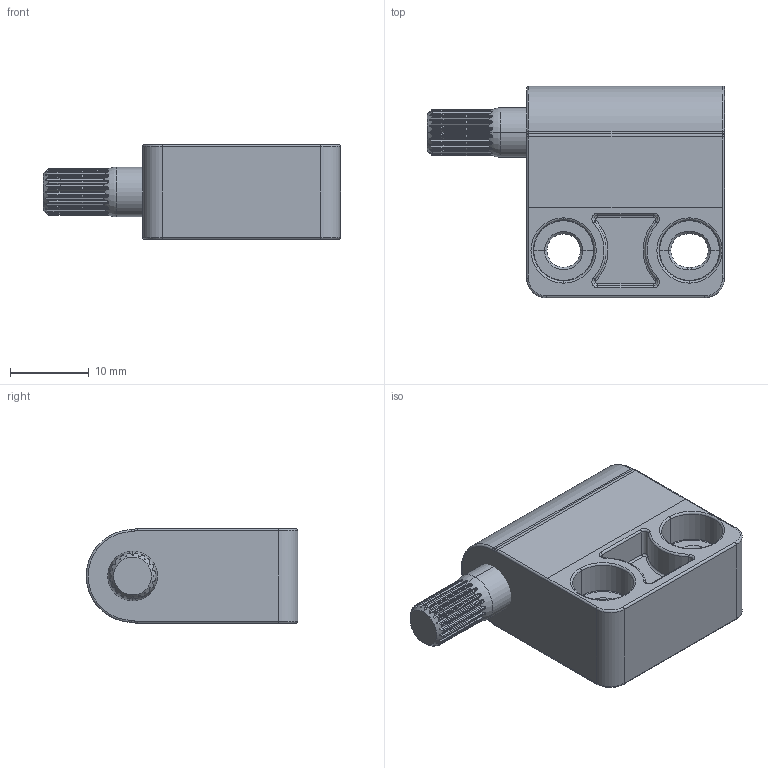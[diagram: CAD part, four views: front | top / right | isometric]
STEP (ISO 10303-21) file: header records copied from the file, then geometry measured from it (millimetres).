
FILE_DESCRIPTION (( 'STEP AP214' ), '1' );
FILE_NAME ('Reell RT-102-XX-03.STEP', '2015-09-10T12:46:11', ( 'USER' ), ( '' ), 'SwSTEP 2.0', 'SolidWorks 2015', '' );
FILE_SCHEMA (( 'AUTOMOTIVE_DESIGN' ));
Length unit declared in the file: millimetre
Products named in the file (3): RT120 Join, Center2; RT120 Join, No Shaft End; Reell RT-102-XX-03
Assembly tree (2 placements, depth 2):
  Reell RT-102-XX-03
    RT120 Join, No Shaft End
    RT120 Join, Center2
Bounding box: 37.75 x 26.9 x 12 mm (x, y, z)
Volume: 7430.3 mm3; surface area: 3918.8 mm2
Topology: 2 solids, 2 shells, 446 faces, 1172 edges, 745 vertices
Faces by surface type: cylinder 178, plane 147, torus 60, bspline 45, cone 16
Entity records: 16783 total; most frequent: CARTESIAN_POINT 6181, ORIENTED_EDGE 2344, DIRECTION 1981, EDGE_CURVE 1172, VERTEX_POINT 745, AXIS2_PLACEMENT_3D 717, LINE 547, VECTOR 547
